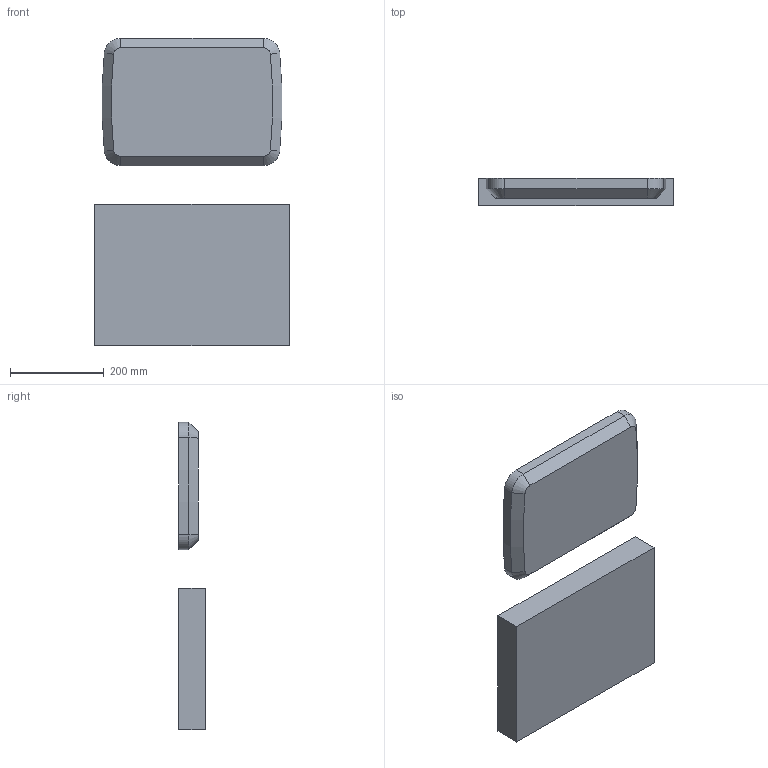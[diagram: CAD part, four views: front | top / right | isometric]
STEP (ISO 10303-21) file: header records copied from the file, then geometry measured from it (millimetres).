
FILE_DESCRIPTION (( 'STEP AP203' ), '1' );
FILE_NAME ('STA-300-368-V01.STEP', '2020-03-05T15:21:09', ( '' ), ( '' ), 'SwSTEP 2.0', 'SolidWorks 2018', '' );
FILE_SCHEMA (( 'CONFIG_CONTROL_DESIGN' ));
Length unit declared in the file: millimetre
Products named in the file (1): STA-300-368-V01
Bounding box: 415 x 57 x 656.81 mm (x, y, z)
Volume: 7143810 mm3; surface area: 610936 mm2
Topology: 2 solids, 2 shells, 41 faces, 92 edges, 56 vertices
Faces by surface type: plane 17, cylinder 12, cone 12
Entity records: 1209 total; most frequent: DIRECTION 212, CARTESIAN_POINT 190, ORIENTED_EDGE 184, EDGE_CURVE 92, AXIS2_PLACEMENT_3D 78, LINE 56, VECTOR 56, VERTEX_POINT 56
